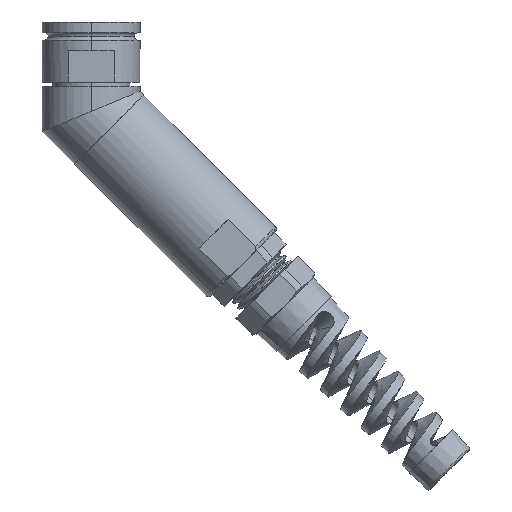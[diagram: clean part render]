
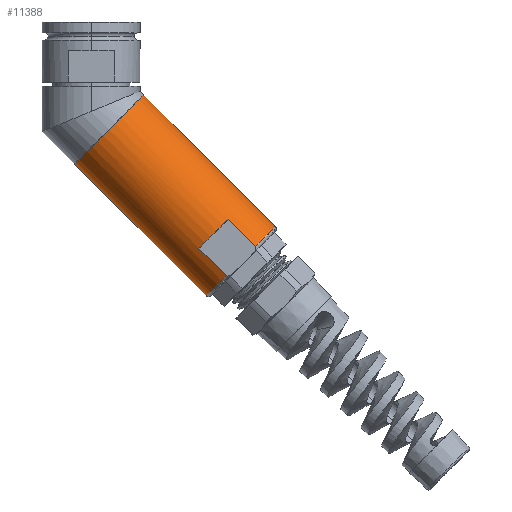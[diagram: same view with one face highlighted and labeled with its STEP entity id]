
A CAD part, left-side view. The second image highlights one B-rep face of the part: STEP entity #11388.
In plain terms, the highlighted cylindrical face has radius 14.77 mm (diameter 29.54 mm), a partial arc.
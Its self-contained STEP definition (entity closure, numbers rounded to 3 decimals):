
#495 = CARTESIAN_POINT ( 'NONE',  ( 0., -34.778, -77.024 ) ) ;
#649 = ORIENTED_EDGE ( 'NONE', *, *, #17048, .T. ) ;
#1027 = ORIENTED_EDGE ( 'NONE', *, *, #16650, .F. ) ;
#1071 = CARTESIAN_POINT ( 'NONE',  ( -13.399, -32.565, -62.714 ) ) ;
#1111 = ORIENTED_EDGE ( 'NONE', *, *, #11678, .T. ) ;
#1114 = LINE ( 'NONE', #15721, #3742 ) ;
#1578 = LINE ( 'NONE', #1745, #7158 ) ;
#1745 = CARTESIAN_POINT ( 'NONE',  ( -13.399, -41.356, -53.923 ) ) ;
#2102 = DIRECTION ( 'NONE',  ( 0., -0.707, -0.707 ) ) ;
#2115 = VERTEX_POINT ( 'NONE', #16405 ) ;
#2552 = ORIENTED_EDGE ( 'NONE', *, *, #13977, .F. ) ;
#2780 = LINE ( 'NONE', #11040, #3463 ) ;
#2929 = FACE_OUTER_BOUND ( 'NONE', #14193, .T. ) ;
#2974 = DIRECTION ( 'NONE',  ( 0., -0.707, -0.707 ) ) ;
#3031 = DIRECTION ( 'NONE',  ( 0., -0.707, 0.707 ) ) ;
#3463 = VECTOR ( 'NONE', #12364, 1000. ) ;
#3742 = VECTOR ( 'NONE', #4709, 1000. ) ;
#3965 = CARTESIAN_POINT ( 'NONE',  ( 0., -15.938, -16.407 ) ) ;
#4207 = EDGE_CURVE ( 'NONE', #2115, #14521, #14355, .T. ) ;
#4633 = AXIS2_PLACEMENT_3D ( 'NONE', #14160, #2102, #7458 ) ;
#4709 = DIRECTION ( 'NONE',  ( 0., 0.707, 0.707 ) ) ;
#4881 = AXIS2_PLACEMENT_3D ( 'NONE', #15099, #12438, #3031 ) ;
#5048 = ORIENTED_EDGE ( 'NONE', *, *, #9823, .F. ) ;
#5723 = CIRCLE ( 'NONE', #8538, 14.77 ) ;
#6000 = AXIS2_PLACEMENT_3D ( 'NONE', #11194, #7310, #9606 ) ;
#6529 = DIRECTION ( 'NONE',  ( 0., 0.707, 0.707 ) ) ;
#6570 = CIRCLE ( 'NONE', #9660, 14.77 ) ;
#6688 = VERTEX_POINT ( 'NONE', #8654 ) ;
#7158 = VECTOR ( 'NONE', #2974, 1000. ) ;
#7310 = DIRECTION ( 'NONE',  ( 0., 0.707, 0.707 ) ) ;
#7458 = DIRECTION ( 'NONE',  ( 0., -0.707, 0.707 ) ) ;
#7808 = VERTEX_POINT ( 'NONE', #495 ) ;
#8250 = CARTESIAN_POINT ( 'NONE',  ( -13.399, -49.617, -62.185 ) ) ;
#8504 = ORIENTED_EDGE ( 'NONE', *, *, #4207, .F. ) ;
#8538 = AXIS2_PLACEMENT_3D ( 'NONE', #14423, #13192, #10617 ) ;
#8654 = CARTESIAN_POINT ( 'NONE',  ( 0., -55.666, -56.136 ) ) ;
#9606 = DIRECTION ( 'NONE',  ( 0., -0.707, 0.707 ) ) ;
#9660 = AXIS2_PLACEMENT_3D ( 'NONE', #16048, #6529, #14646 ) ;
#9823 = EDGE_CURVE ( 'NONE', #7808, #15737, #1114, .T. ) ;
#10494 = CARTESIAN_POINT ( 'NONE',  ( -13.399, -40.827, -70.975 ) ) ;
#10617 = DIRECTION ( 'NONE',  ( 0., -0.707, 0.707 ) ) ;
#11040 = CARTESIAN_POINT ( 'NONE',  ( 0., -15.938, -16.407 ) ) ;
#11194 = CARTESIAN_POINT ( 'NONE',  ( 0., -5.493, -26.851 ) ) ;
#11364 = ORIENTED_EDGE ( 'NONE', *, *, #12033, .T. ) ;
#11388 = ADVANCED_FACE ( 'NONE', ( #2929 ), #15080, .T. ) ;
#11655 = VERTEX_POINT ( 'NONE', #12006 ) ;
#11678 = EDGE_CURVE ( 'NONE', #17034, #6688, #6570, .T. ) ;
#12006 = CARTESIAN_POINT ( 'NONE',  ( -13.399, -41.356, -53.923 ) ) ;
#12033 = EDGE_CURVE ( 'NONE', #7808, #14521, #5723, .T. ) ;
#12364 = DIRECTION ( 'NONE',  ( 0., 0.707, 0.707 ) ) ;
#12438 = DIRECTION ( 'NONE',  ( 0., 0.707, 0.707 ) ) ;
#12746 = CIRCLE ( 'NONE', #4881, 14.77 ) ;
#12960 = EDGE_CURVE ( 'NONE', #6688, #16242, #2780, .T. ) ;
#13192 = DIRECTION ( 'NONE',  ( 0., 0.707, 0.707 ) ) ;
#13212 = DIRECTION ( 'NONE',  ( 0., -0.707, -0.707 ) ) ;
#13977 = EDGE_CURVE ( 'NONE', #15737, #16242, #12746, .T. ) ;
#14032 = VECTOR ( 'NONE', #13212, 1000. ) ;
#14160 = CARTESIAN_POINT ( 'NONE',  ( 0., -36.96, -58.318 ) ) ;
#14193 = EDGE_LOOP ( 'NONE', ( #5048, #11364, #8504, #1027, #649, #1111, #15256, #2552 ) ) ;
#14355 = LINE ( 'NONE', #1071, #14032 ) ;
#14423 = CARTESIAN_POINT ( 'NONE',  ( 0., -45.222, -66.58 ) ) ;
#14521 = VERTEX_POINT ( 'NONE', #10494 ) ;
#14646 = DIRECTION ( 'NONE',  ( 0., -0.707, 0.707 ) ) ;
#15080 = CYLINDRICAL_SURFACE ( 'NONE', #6000, 14.77 ) ;
#15099 = CARTESIAN_POINT ( 'NONE',  ( 0., -5.493, -26.851 ) ) ;
#15256 = ORIENTED_EDGE ( 'NONE', *, *, #12960, .T. ) ;
#15721 = CARTESIAN_POINT ( 'NONE',  ( 0., 4.951, -37.296 ) ) ;
#15737 = VERTEX_POINT ( 'NONE', #16989 ) ;
#16048 = CARTESIAN_POINT ( 'NONE',  ( 0., -45.222, -66.58 ) ) ;
#16242 = VERTEX_POINT ( 'NONE', #3965 ) ;
#16405 = CARTESIAN_POINT ( 'NONE',  ( -13.399, -32.565, -62.714 ) ) ;
#16447 = CIRCLE ( 'NONE', #4633, 14.77 ) ;
#16650 = EDGE_CURVE ( 'NONE', #11655, #2115, #16447, .T. ) ;
#16989 = CARTESIAN_POINT ( 'NONE',  ( 0., 4.951, -37.296 ) ) ;
#17034 = VERTEX_POINT ( 'NONE', #8250 ) ;
#17048 = EDGE_CURVE ( 'NONE', #11655, #17034, #1578, .T. ) ;
